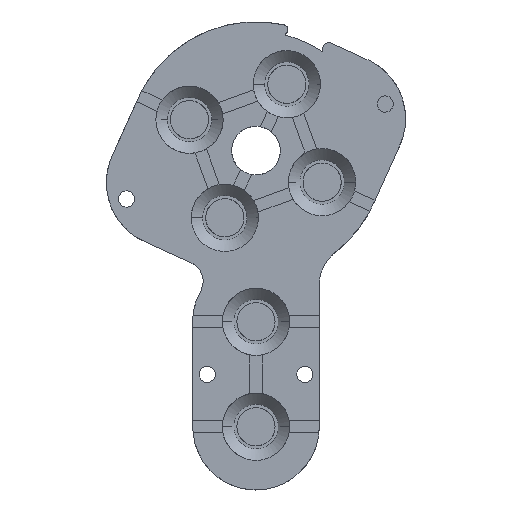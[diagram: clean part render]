
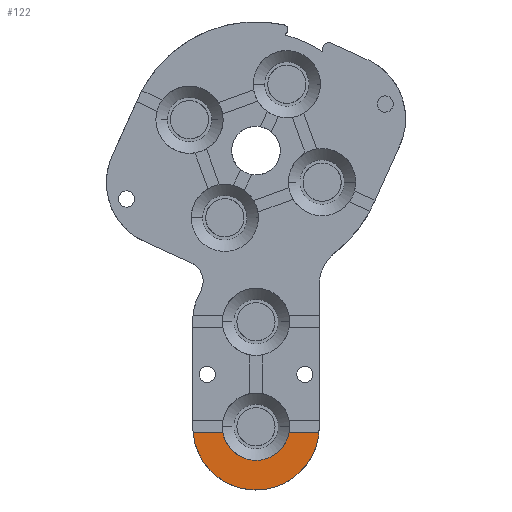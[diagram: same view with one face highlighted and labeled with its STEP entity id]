
A CAD part, top view. The second image highlights one B-rep face of the part: STEP entity #122.
In plain terms, the highlighted planar face has unit normal (0, 0, 1).
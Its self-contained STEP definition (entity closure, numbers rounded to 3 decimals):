
#122=ADVANCED_FACE('',(#296),#2613,.T.);
#296=FACE_OUTER_BOUND('',#483,.T.);
#483=EDGE_LOOP('',(#946,#947,#948,#949));
#946=ORIENTED_EDGE('',*,*,#1642,.T.);
#947=ORIENTED_EDGE('',*,*,#1643,.T.);
#948=ORIENTED_EDGE('',*,*,#1644,.T.);
#949=ORIENTED_EDGE('',*,*,#1686,.T.);
#1642=EDGE_CURVE('',#2482,#2483,#2230,.T.);
#1643=EDGE_CURVE('',#2483,#2484,#2015,.T.);
#1644=EDGE_CURVE('',#2484,#2485,#2231,.T.);
#1686=EDGE_CURVE('',#2485,#2482,#2024,.T.);
#2015=(
BOUNDED_CURVE()
B_SPLINE_CURVE(2,(#5280,#5281,#5282,#5283,#5284),.UNSPECIFIED.,.F.,.F.)
B_SPLINE_CURVE_WITH_KNOTS((3,2,3),(0.,14.166,28.331),
 .UNSPECIFIED.)
CURVE()
GEOMETRIC_REPRESENTATION_ITEM()
RATIONAL_B_SPLINE_CURVE((1.,0.74,1.,0.74,1.))
REPRESENTATION_ITEM('')
);
#2024=(
BOUNDED_CURVE()
B_SPLINE_CURVE(2,(#5370,#5371,#5372,#5373,#5374),.UNSPECIFIED.,.F.,.F.)
B_SPLINE_CURVE_WITH_KNOTS((3,2,3),(-13.828,-6.914,
0.),.UNSPECIFIED.)
CURVE()
GEOMETRIC_REPRESENTATION_ITEM()
RATIONAL_B_SPLINE_CURVE((1.,0.768,1.,0.768,1.))
REPRESENTATION_ITEM('')
);
#2230=B_SPLINE_CURVE_WITH_KNOTS('',1,(#5278,#5279),.UNSPECIFIED.,.F.,.F.,
(2,2),(0.,3.682),.UNSPECIFIED.);
#2231=B_SPLINE_CURVE_WITH_KNOTS('',1,(#5285,#5286),.UNSPECIFIED.,.F.,.F.,
(2,2),(0.,3.682),.UNSPECIFIED.);
#2482=VERTEX_POINT('',#4508);
#2483=VERTEX_POINT('',#4509);
#2484=VERTEX_POINT('',#4510);
#2485=VERTEX_POINT('',#4511);
#2613=PLANE('',#2901);
#2901=AXIS2_PLACEMENT_3D('',#3511,#3026,$);
#3026=DIRECTION('',(0.,0.,1.));
#3511=CARTESIAN_POINT('',(-9.329,-42.567,5.2));
#4508=CARTESIAN_POINT('',(-4.082,-34.8,5.2));
#4509=CARTESIAN_POINT('',(-7.764,-34.8,5.2));
#4510=CARTESIAN_POINT('',(7.764,-34.8,5.2));
#4511=CARTESIAN_POINT('',(4.082,-34.8,5.2));
#5278=CARTESIAN_POINT('',(-4.082,-34.8,5.2));
#5279=CARTESIAN_POINT('',(-7.764,-34.8,5.2));
#5280=CARTESIAN_POINT('',(-7.764,-34.8,5.2));
#5281=CARTESIAN_POINT('',(-7.083,-41.85,5.2));
#5282=CARTESIAN_POINT('',(0.,-41.85,5.2));
#5283=CARTESIAN_POINT('',(7.083,-41.85,5.2));
#5284=CARTESIAN_POINT('',(7.764,-34.8,5.2));
#5285=CARTESIAN_POINT('',(7.764,-34.8,5.2));
#5286=CARTESIAN_POINT('',(4.082,-34.8,5.2));
#5370=CARTESIAN_POINT('',(4.082,-34.8,5.2));
#5371=CARTESIAN_POINT('',(3.457,-38.2,5.2));
#5372=CARTESIAN_POINT('',(0.,-38.2,5.2));
#5373=CARTESIAN_POINT('',(-3.457,-38.2,5.2));
#5374=CARTESIAN_POINT('',(-4.082,-34.8,5.2));
